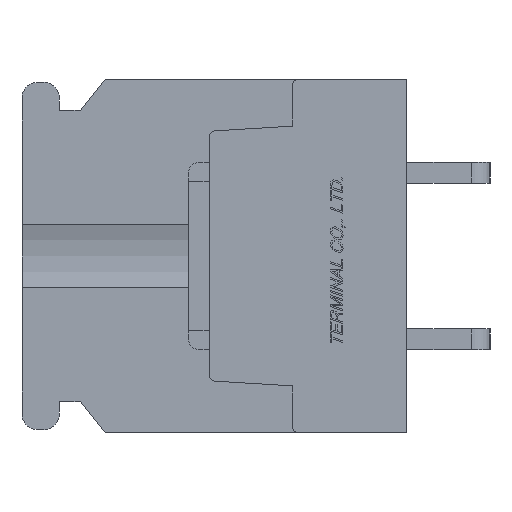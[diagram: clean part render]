
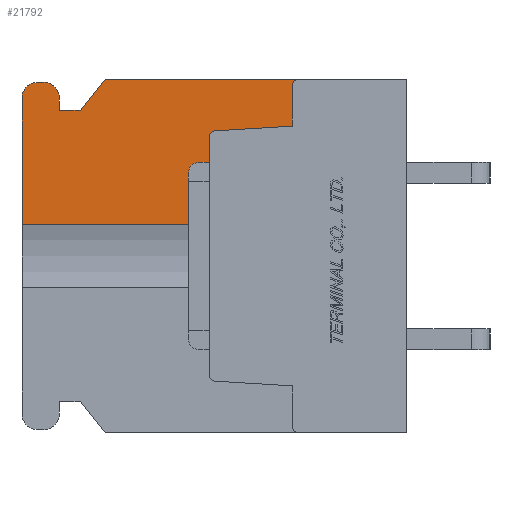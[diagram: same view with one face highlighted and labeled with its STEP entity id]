
A CAD part, left-side view. The second image highlights one B-rep face of the part: STEP entity #21792.
In plain terms, the highlighted planar face has unit normal (-1, 0, 0).
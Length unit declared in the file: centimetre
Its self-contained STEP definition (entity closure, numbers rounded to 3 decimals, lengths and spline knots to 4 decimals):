
#1578=VECTOR('',#24849,1.);
#1580=VECTOR('',#24852,1.);
#1582=VECTOR('',#24859,1.);
#1583=VECTOR('',#24860,1.);
#1584=VECTOR('',#24861,1.);
#1585=VECTOR('',#24862,1.);
#1586=VECTOR('',#24863,1.);
#1587=VECTOR('',#24866,1.);
#1588=VECTOR('',#24869,1.);
#1589=VECTOR('',#24870,1.);
#3965=LINE('',#31977,#1578);
#3967=LINE('',#31981,#1580);
#3969=LINE('',#31987,#1582);
#3970=LINE('',#31989,#1583);
#3971=LINE('',#31991,#1584);
#3972=LINE('',#31993,#1585);
#3973=LINE('',#31995,#1586);
#3974=LINE('',#31999,#1587);
#3975=LINE('',#32003,#1588);
#3976=LINE('',#32005,#1589);
#6434=VERTEX_POINT('',#31970);
#6435=VERTEX_POINT('',#31972);
#6436=VERTEX_POINT('',#31976);
#6437=VERTEX_POINT('',#31980);
#6438=VERTEX_POINT('',#31984);
#6439=VERTEX_POINT('',#31988);
#6440=VERTEX_POINT('',#31990);
#6441=VERTEX_POINT('',#31992);
#6442=VERTEX_POINT('',#31994);
#6443=VERTEX_POINT('',#31996);
#6444=VERTEX_POINT('',#31998);
#6445=VERTEX_POINT('',#32000);
#6446=VERTEX_POINT('',#32002);
#6447=VERTEX_POINT('',#32004);
#7925=CIRCLE('',#37006,0.03);
#7926=CIRCLE('',#37010,0.03);
#7927=CIRCLE('',#37012,0.075);
#7928=CIRCLE('',#37013,0.075);
#9654=EDGE_CURVE('',#6435,#6434,#7925,.T.);
#9657=EDGE_CURVE('',#6434,#6436,#3965,.T.);
#9659=EDGE_CURVE('',#6436,#6437,#3967,.T.);
#9661=EDGE_CURVE('',#6437,#6438,#7926,.T.);
#9662=EDGE_CURVE('',#6439,#6435,#3969,.T.);
#9663=EDGE_CURVE('',#6440,#6438,#3970,.T.);
#9664=EDGE_CURVE('',#6441,#6440,#3971,.T.);
#9665=EDGE_CURVE('',#6442,#6441,#3972,.T.);
#9666=EDGE_CURVE('',#6443,#6442,#3973,.T.);
#9667=EDGE_CURVE('',#6444,#6443,#7927,.T.);
#9668=EDGE_CURVE('',#6445,#6444,#3974,.T.);
#9669=EDGE_CURVE('',#6446,#6445,#7928,.T.);
#9670=EDGE_CURVE('',#6447,#6446,#3975,.T.);
#9671=EDGE_CURVE('',#6447,#6439,#3976,.T.);
#14173=ORIENTED_EDGE('',*,*,#9662,.T.);
#14174=ORIENTED_EDGE('',*,*,#9654,.T.);
#14175=ORIENTED_EDGE('',*,*,#9657,.T.);
#14176=ORIENTED_EDGE('',*,*,#9659,.T.);
#14177=ORIENTED_EDGE('',*,*,#9661,.T.);
#14178=ORIENTED_EDGE('',*,*,#9663,.F.);
#14179=ORIENTED_EDGE('',*,*,#9664,.F.);
#14180=ORIENTED_EDGE('',*,*,#9665,.F.);
#14181=ORIENTED_EDGE('',*,*,#9666,.F.);
#14182=ORIENTED_EDGE('',*,*,#9667,.F.);
#14183=ORIENTED_EDGE('',*,*,#9668,.F.);
#14184=ORIENTED_EDGE('',*,*,#9669,.F.);
#14185=ORIENTED_EDGE('',*,*,#9670,.F.);
#14186=ORIENTED_EDGE('',*,*,#9671,.T.);
#19054=EDGE_LOOP('',(#14173,#14174,#14175,#14176,#14177,#14178,#14179,#14180,
#14181,#14182,#14183,#14184,#14185,#14186));
#20450=FACE_BOUND('',#19054,.T.);
#21792=ADVANCED_FACE('',(#20450),#22899,.F.);
#22899=PLANE('',#37011);
#24844=DIRECTION('',(1.,0.,0.));
#24845=DIRECTION('',(0.,0.,0.03));
#24849=DIRECTION('',(0.,-0.998,0.061));
#24852=DIRECTION('',(0.,0.,1.));
#24856=DIRECTION('',(1.,0.,0.));
#24857=DIRECTION('',(0.,0.,0.03));
#24858=DIRECTION('',(1.,0.,0.));
#24859=DIRECTION('',(0.,0.,1.));
#24860=DIRECTION('',(0.,-1.,0.));
#24861=DIRECTION('',(0.,-0.625,0.781));
#24862=DIRECTION('',(0.,-1.,0.));
#24863=DIRECTION('',(0.,0.,-1.));
#24864=DIRECTION('',(1.,0.,0.));
#24865=DIRECTION('',(0.,0.,-0.075));
#24866=DIRECTION('',(0.,-1.,0.));
#24867=DIRECTION('',(1.,0.,0.));
#24868=DIRECTION('',(0.,0.,-0.075));
#24869=DIRECTION('',(0.,0.,1.));
#24870=DIRECTION('',(0.,-1.,0.));
#31970=CARTESIAN_POINT('',(-1.1,0.9218,0.6017));
#31971=CARTESIAN_POINT('',(-1.1,0.92,0.5718));
#31972=CARTESIAN_POINT('',(-1.1,0.95,0.5718));
#31976=CARTESIAN_POINT('',(-1.1,0.55,0.6245));
#31977=CARTESIAN_POINT('',(-1.1,0.859,0.6056));
#31980=CARTESIAN_POINT('',(-1.1,0.55,0.82));
#31981=CARTESIAN_POINT('',(-1.1,0.55,0.3611));
#31984=CARTESIAN_POINT('',(-1.1,0.52,0.85));
#31985=CARTESIAN_POINT('',(-1.1,0.52,0.82));
#31986=CARTESIAN_POINT('',(-1.1,0.9454,0.));
#31987=CARTESIAN_POINT('',(-1.1,0.95,0.));
#31988=CARTESIAN_POINT('',(-1.1,0.95,0.1521));
#31989=CARTESIAN_POINT('',(-1.1,1.45,0.85));
#31990=CARTESIAN_POINT('',(-1.1,1.45,0.85));
#31991=CARTESIAN_POINT('',(-1.1,1.57,0.7));
#31992=CARTESIAN_POINT('',(-1.1,1.57,0.7));
#31993=CARTESIAN_POINT('',(-1.1,1.67,0.7));
#31994=CARTESIAN_POINT('',(-1.1,1.67,0.7));
#31995=CARTESIAN_POINT('',(-1.1,1.67,0.76));
#31996=CARTESIAN_POINT('',(-1.1,1.67,0.76));
#31997=CARTESIAN_POINT('',(-1.1,1.745,0.76));
#31998=CARTESIAN_POINT('',(-1.1,1.745,0.835));
#31999=CARTESIAN_POINT('',(-1.1,1.775,0.835));
#32000=CARTESIAN_POINT('',(-1.1,1.775,0.835));
#32001=CARTESIAN_POINT('',(-1.1,1.775,0.76));
#32002=CARTESIAN_POINT('',(-1.1,1.85,0.76));
#32003=CARTESIAN_POINT('',(-1.1,1.85,-0.76));
#32004=CARTESIAN_POINT('',(-1.1,1.85,0.1521));
#32005=CARTESIAN_POINT('',(-1.1,1.4,0.1521));
#37006=AXIS2_PLACEMENT_3D('',#31971,#24844,#24845);
#37010=AXIS2_PLACEMENT_3D('',#31985,#24856,#24857);
#37011=AXIS2_PLACEMENT_3D('',#31986,#24858,$);
#37012=AXIS2_PLACEMENT_3D('',#31997,#24864,#24865);
#37013=AXIS2_PLACEMENT_3D('',#32001,#24867,#24868);
